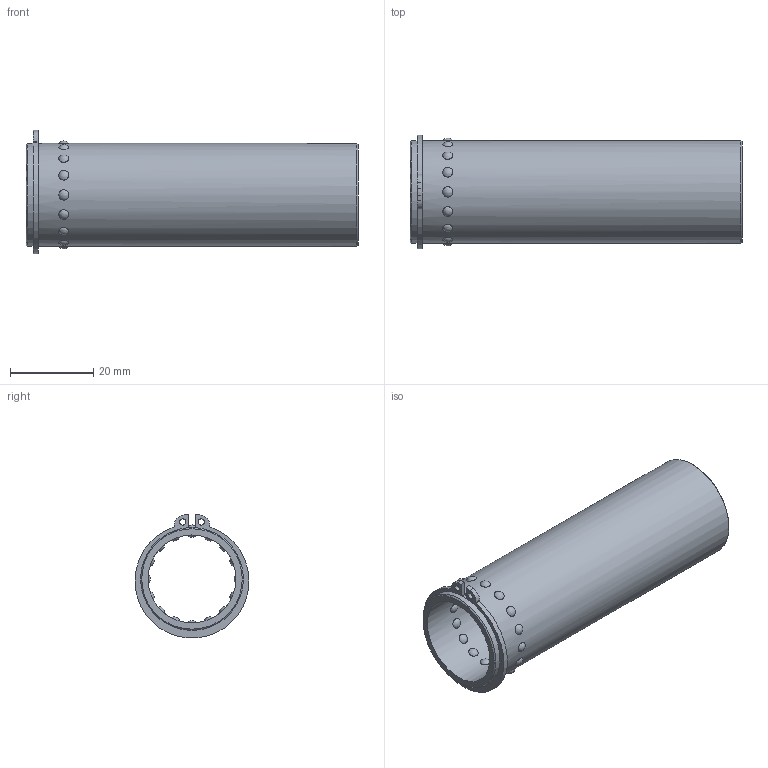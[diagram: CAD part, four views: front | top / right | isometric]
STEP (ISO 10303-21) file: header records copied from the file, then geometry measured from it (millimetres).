
FILE_DESCRIPTION(/* description */ ('Impex Ready, www.impex-ready.pl'),/* implementation_level */ '2;1');
FILE_NAME(/* name */ 'C:\Users\VIKKY\Nextcloud\SM\projekt 10 - części na stronę internetową\Pliki_3D_new\276 Koszyk GSA\276 GSA_STEP\GSA2080.ipt.step',/* time_stamp */ '2021-12-22T11:57:54+01:00',/* author */ ('SM'),/* organization */ (''),/* preprocessor_version */ 'ST-DEVELOPER v18.1',/* originating_system */ 'Autodesk Inventor 2021',/* authorisation */ '');
FILE_SCHEMA (('AUTOMOTIVE_DESIGN { 1 0 10303 214 3 1 1 }'));
Length unit declared in the file: millimetre
Products named in the file (1): GSA2080
Bounding box: 80 x 27.46 x 29.82 mm (x, y, z)
Volume: 10580.1 mm3; surface area: 12411.2 mm2
Topology: 2 solids, 2 shells, 56 faces, 90 edges, 70 vertices
Faces by surface type: sphere 32, plane 12, cylinder 10, cone 2
Full cylindrical faces by diameter (mm): 1.5 x2, 21.2 x1, 23.8 x1, 24.8 x2
Entity records: 2609 total; most frequent: CARTESIAN_POINT 1405, DIRECTION 190, ORIENTED_EDGE 180, EDGE_LOOP 94, EDGE_CURVE 90, AXIS2_PLACEMENT_3D 79, VERTEX_POINT 70, FACE_OUTER_BOUND 56
